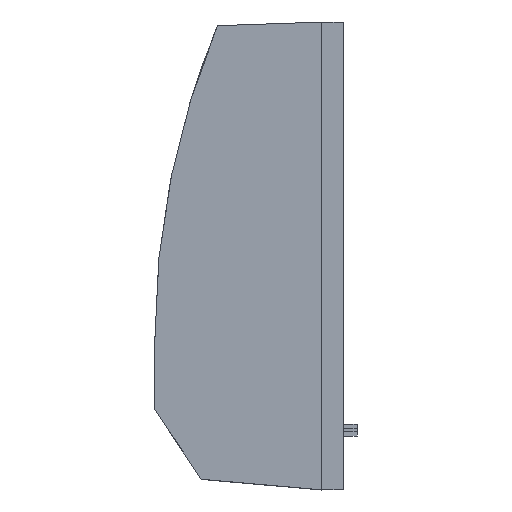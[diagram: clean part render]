
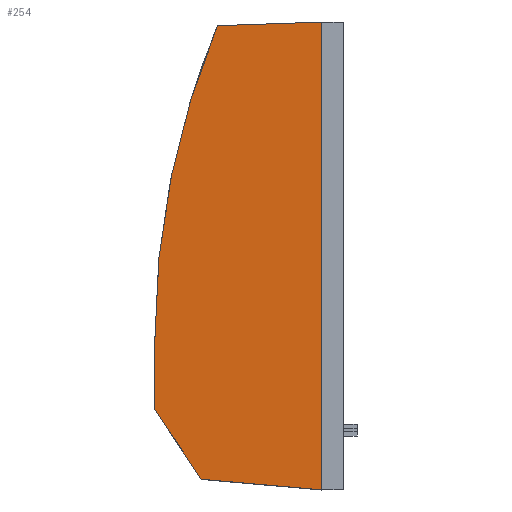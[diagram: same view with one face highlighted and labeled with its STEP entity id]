
A CAD part, top view. The second image highlights one B-rep face of the part: STEP entity #254.
In plain terms, the highlighted planar face has unit normal (-0.035, 0, 0.999).
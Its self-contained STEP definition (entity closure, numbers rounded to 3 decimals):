
#254 = ADVANCED_FACE( '', ( #530 ), #531, .F. );
#530 = FACE_OUTER_BOUND( '', #848, .T. );
#531 = PLANE( '', #849 );
#848 = EDGE_LOOP( '', ( #1402, #1403, #1404, #1405, #1406, #1407 ) );
#849 = AXIS2_PLACEMENT_3D( '', #1408, #1409, #1410 );
#1402 = ORIENTED_EDGE( '', *, *, #2142, .T. );
#1403 = ORIENTED_EDGE( '', *, *, #1983, .T. );
#1404 = ORIENTED_EDGE( '', *, *, #2143, .T. );
#1405 = ORIENTED_EDGE( '', *, *, #1980, .T. );
#1406 = ORIENTED_EDGE( '', *, *, #2137, .T. );
#1407 = ORIENTED_EDGE( '', *, *, #2144, .T. );
#1408 = CARTESIAN_POINT( '', ( -72.5, 150., 13.468 ) );
#1409 = DIRECTION( '', ( 0.035, 0., -0.999 ) );
#1410 = DIRECTION( '', ( -0.999, 0., -0.035 ) );
#1980 = EDGE_CURVE( '', #2377, #2382, #2384, .T. );
#1983 = EDGE_CURVE( '', #2389, #2386, #2390, .F. );
#2137 = EDGE_CURVE( '', #2382, #2632, #2634, .T. );
#2142 = EDGE_CURVE( '', #2641, #2389, #2642, .T. );
#2143 = EDGE_CURVE( '', #2386, #2377, #2643, .T. );
#2144 = EDGE_CURVE( '', #2632, #2641, #2644, .T. );
#2377 = VERTEX_POINT( '', #2951 );
#2382 = VERTEX_POINT( '', #2958 );
#2384 = LINE( '', #2961, #2962 );
#2386 = VERTEX_POINT( '', #2964 );
#2389 = VERTEX_POINT( '', #2968 );
#2390 = ELLIPSE( '', #2969, 356.737, 356.52 );
#2632 = VERTEX_POINT( '', #3336 );
#2634 = LINE( '', #3339, #3340 );
#2641 = VERTEX_POINT( '', #3349 );
#2642 = LINE( '', #3350, #3351 );
#2643 = LINE( '', #3352, #3353 );
#2644 = LINE( '', #3354, #3355 );
#2951 = CARTESIAN_POINT( '', ( -72.5, -23.102, 13.468 ) );
#2958 = CARTESIAN_POINT( '', ( -52.284, -53.426, 14.174 ) );
#2961 = CARTESIAN_POINT( '', ( -152.363, 96.693, 10.679 ) );
#2962 = VECTOR( '', #3685, 1000. );
#2964 = CARTESIAN_POINT( '', ( -72.5, 7.049, 13.468 ) );
#2968 = CARTESIAN_POINT( '', ( -45.236, 143.786, 14.42 ) );
#2969 = AXIS2_PLACEMENT_3D( '', #3687, #3688, #3689 );
#3336 = CARTESIAN_POINT( '', ( 0., -58., 16. ) );
#3339 = CARTESIAN_POINT( '', ( -89.987, -50.128, 12.857 ) );
#3340 = VECTOR( '', #3818, 1000. );
#3349 = CARTESIAN_POINT( '', ( 0., 145.365, 16. ) );
#3350 = CARTESIAN_POINT( '', ( -72.25, 142.843, 13.477 ) );
#3351 = VECTOR( '', #3824, 1000. );
#3352 = CARTESIAN_POINT( '', ( -72.5, 150., 13.468 ) );
#3353 = VECTOR( '', #3825, 1000. );
#3354 = CARTESIAN_POINT( '', ( 0., -58., 16. ) );
#3355 = VECTOR( '', #3826, 1000. );
#3685 = DIRECTION( '', ( 0.555, -0.832, 0.019 ) );
#3687 = CARTESIAN_POINT( '', ( 284.02, 7.049, 25.919 ) );
#3688 = DIRECTION( '', ( 0.035, 0., -0.999 ) );
#3689 = DIRECTION( '', ( -0.999, 0., -0.035 ) );
#3818 = DIRECTION( '', ( 0.996, -0.087, 0.035 ) );
#3824 = DIRECTION( '', ( -0.999, -0.035, -0.035 ) );
#3825 = DIRECTION( '', ( 0., -1., 0. ) );
#3826 = DIRECTION( '', ( 0., 1., 0. ) );
